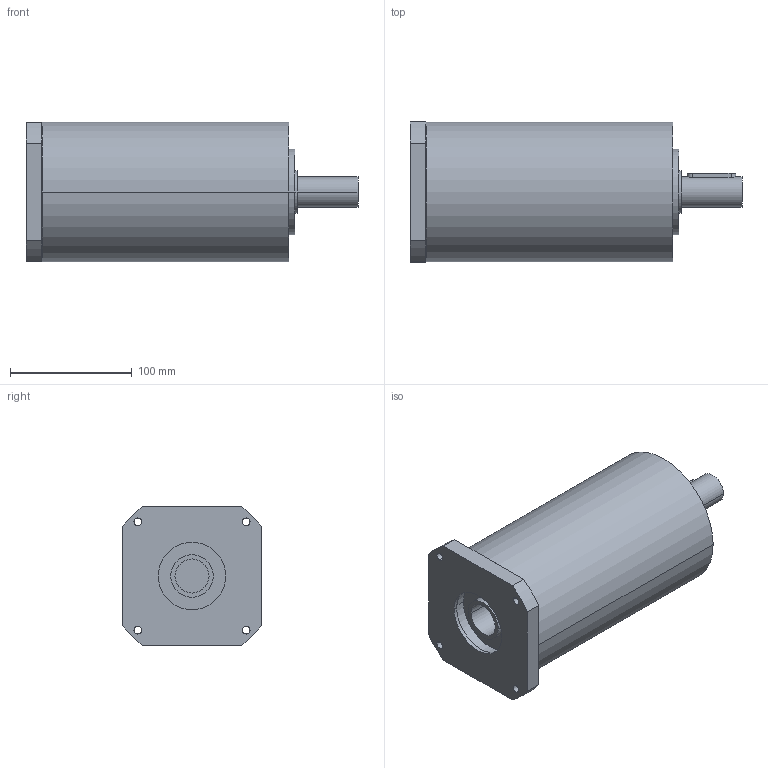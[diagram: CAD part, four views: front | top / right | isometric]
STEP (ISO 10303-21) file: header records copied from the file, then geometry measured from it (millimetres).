
FILE_DESCRIPTION(('CoCreate Modeling STEP Export'),'2;1');
FILE_NAME('GPR125_ig-48-64-80-100-140-196-245-343_25_B14_28_P01.stp','2014-08-26T14:22:43',(''),(''),'CoCreate Modeling STEP processor for AP214 (Solid Model)','CoCreate Modeling 16.00C 25-Feb-2009 (C) Parametric Technology GmbH','');
FILE_SCHEMA(('AUTOMOTIVE_DESIGN { 1 0 10303 214 1 1 1 1 }'));
Length unit declared in the file: millimetre
Products named in the file (2): GPR125_ig-48-64-80-100-140-196-245-343_25_B14_28_P01
Assembly tree (1 placements, depth 2):
  GPR125_ig-48-64-80-100-140-196-245-343_25_B14_28_P01
    GPR125_ig-48-64-80-100-140-196-245-343_25_B14_28_P01
Bounding box: 273 x 115 x 115 mm (x, y, z)
Volume: 2248493.4 mm3; surface area: 122550.1 mm2
Topology: 1 solids, 1 shells, 77 faces, 211 edges, 151 vertices
Faces by surface type: cylinder 48, plane 25, cone 4
Entity records: 2148 total; most frequent: ORIENTED_EDGE 418, CARTESIAN_POINT 398, DIRECTION 288, EDGE_CURVE 209, VERTEX_POINT 151, AXIS2_PLACEMENT_3D 109, EDGE_LOOP 102, FACE_OUTER_BOUND 77
